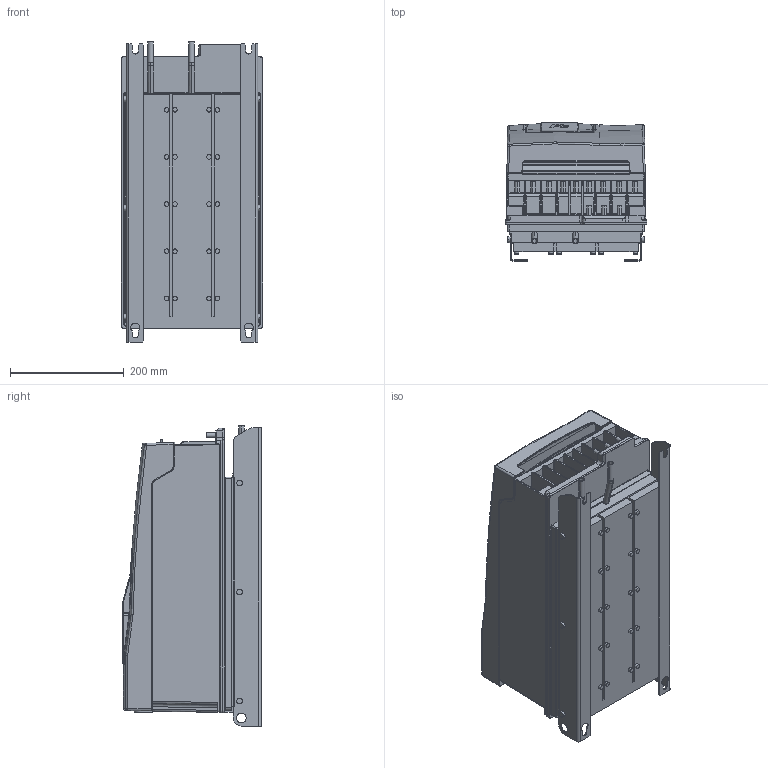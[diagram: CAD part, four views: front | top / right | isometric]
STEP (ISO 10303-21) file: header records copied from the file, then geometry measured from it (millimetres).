
FILE_DESCRIPTION (( 'STEP AP214' ), '1' );
FILE_NAME ('F6-6TW1-A010.STEP', '2022-02-09T06:20:58', ( '' ), ( '' ), 'SwSTEP 2.0', 'SolidWorks 2019', '' );
FILE_SCHEMA (( 'AUTOMOTIVE_DESIGN' ));
Length unit declared in the file: millimetre
Products named in the file (11): 10049926_000_Leistungsteil F6-6  TW1 (Kundenmodell); 10035736_000_Kundenmodell; Kundenmodell^10061793_000; 10059764_000_Blindabdeckung (Kundenmodell); Kundenmodell^10035736_000; Kundenmodell^10059764_000; 10027052_000_Geh„usebaugruppe F6-6 (Kundenmodell); Kundenmodell^10049926_000; F6-6TW1-A010; 10061793_000_Deckelbaugruppe F6-6 (Kundenmodell); Kundenmodell^10027052_000
Assembly tree (10 placements, depth 4):
  F6-6TW1-A010
    10049926_000_Leistungsteil F6-6  TW1 (Kundenmodell)
      Kundenmodell^10049926_000
    10027052_000_Geh„usebaugruppe F6-6 (Kundenmodell)
      10061793_000_Deckelbaugruppe F6-6 (Kundenmodell)
        Kundenmodell^10061793_000
      Kundenmodell^10027052_000
    10035736_000_Kundenmodell
      10059764_000_Blindabdeckung (Kundenmodell)
        Kundenmodell^10059764_000
      Kundenmodell^10035736_000
Bounding box: 249 x 243.9 x 528.5 mm (x, y, z)
Volume: 22312599.9 mm3; surface area: 1385296 mm2
Topology: 12 solids, 20 shells, 3097 faces, 7699 edges, 4607 vertices
Faces by surface type: cylinder 1111, plane 1089, bspline 572, torus 141, sphere 108, cone 76
Entity records: 104318 total; most frequent: CARTESIAN_POINT 35242, ORIENTED_EDGE 15096, DIRECTION 13394, EDGE_CURVE 7548, AXIS2_PLACEMENT_3D 4795, VERTEX_POINT 4605, VECTOR 3804, LINE 3804
